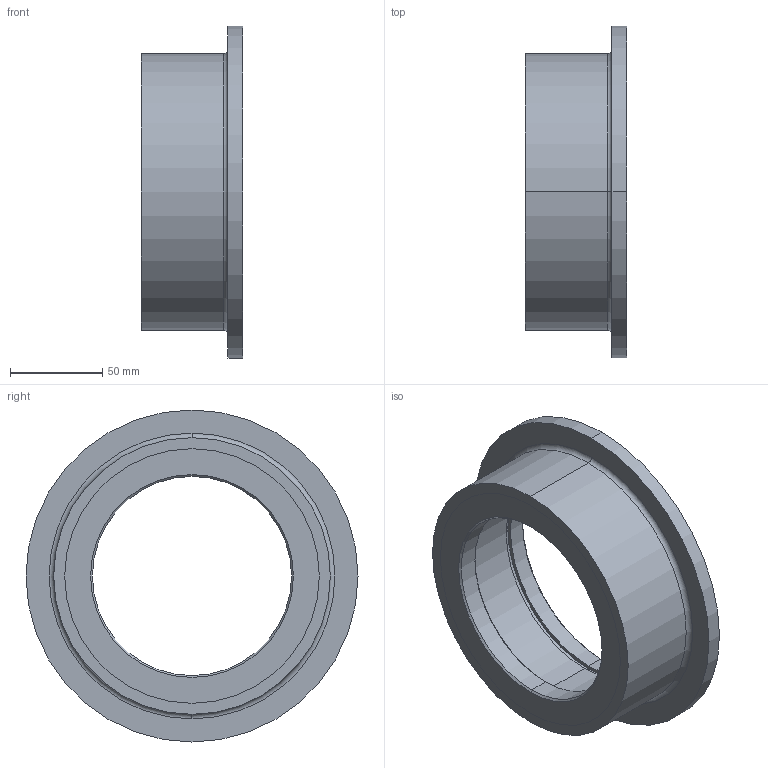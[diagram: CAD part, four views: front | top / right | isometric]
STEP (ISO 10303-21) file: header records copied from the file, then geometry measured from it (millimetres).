
FILE_DESCRIPTION (( 'STEP AP214' ), '1' );
FILE_NAME ('12035307230203.STEP', '2026-07-27T07:52:58', ( 'chenjinwen' ), ( '' ), 'SwSTEP 2.0', 'SolidWorks 2026', '' );
FILE_SCHEMA (( 'AUTOMOTIVE_DESIGN' ));
Length unit declared in the file: millimetre
Products named in the file (1): 12035307230203
Bounding box: 55 x 180 x 180 mm (x, y, z)
Volume: 436611.9 mm3; surface area: 143410.2 mm2
Topology: 2 solids, 2 shells, 50 faces, 100 edges, 60 vertices
Faces by surface type: cylinder 20, cone 18, plane 10, torus 2
Entity records: 1346 total; most frequent: DIRECTION 264, CARTESIAN_POINT 211, ORIENTED_EDGE 200, AXIS2_PLACEMENT_3D 113, EDGE_CURVE 100, CIRCLE 62, VERTEX_POINT 60, EDGE_LOOP 60
